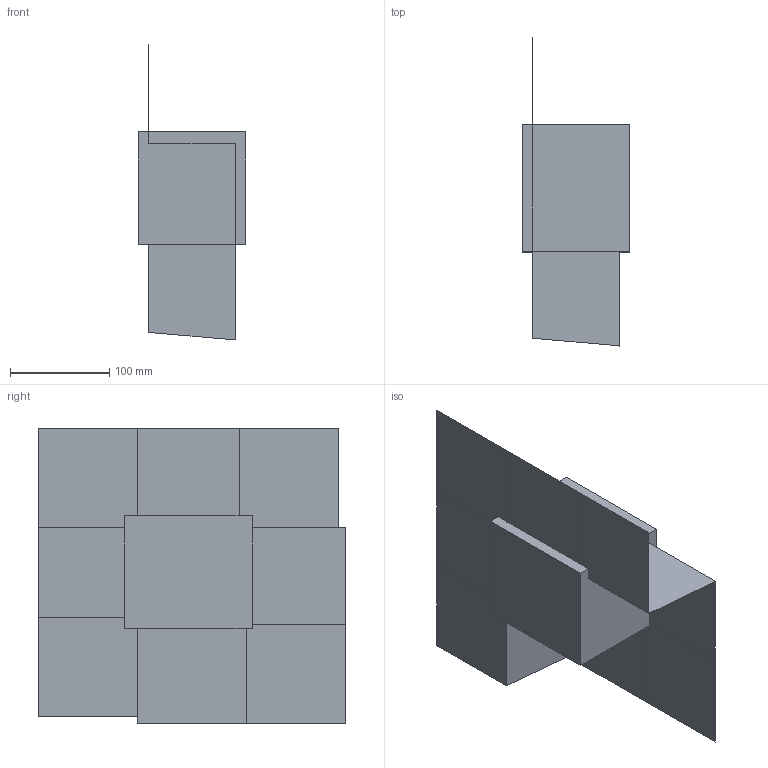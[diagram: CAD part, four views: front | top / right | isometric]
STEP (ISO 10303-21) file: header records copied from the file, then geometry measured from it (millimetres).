
FILE_DESCRIPTION(('CATIA V5 STEP Exchange'),'2;1');
FILE_NAME('C:\_Andres\UNIVERSIDAD\IQS\ASIGNATURAS\DAO\EXF\EXF-15161c\1original\Postius_Echeverri_Ej02-moldes_v19.stp','2016-03-04T15:45:41+00:00',('none'),('none'),'CATIA Version 5 Release 20 SP 1 (IN-10)','CATIA V5 STEP AP203','none');
FILE_SCHEMA(('CONFIG_CONTROL_DESIGN'));
Length unit declared in the file: millimetre
Products named in the file (1): Postius_Echeverri_Ej02-moldes_v19
Bounding box: 109 x 310.83 x 298.83 mm (x, y, z)
Volume: 3395593.8 mm3; surface area: 373635.9 mm2
Topology: 3 solids, 7 shells, 45 faces, 118 edges, 83 vertices
Faces by surface type: plane 41, cylinder 4
Entity records: 1101 total; most frequent: ORIENTED_EDGE 198, CARTESIAN_POINT 179, DIRECTION 147, EDGE_CURVE 83, VECTOR 73, LINE 73, VERTEX_POINT 56, EDGE_LOOP 49
